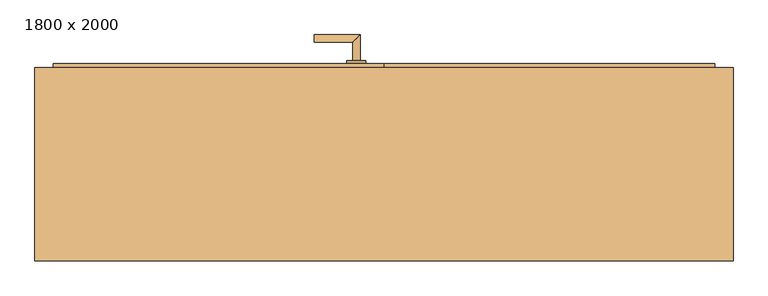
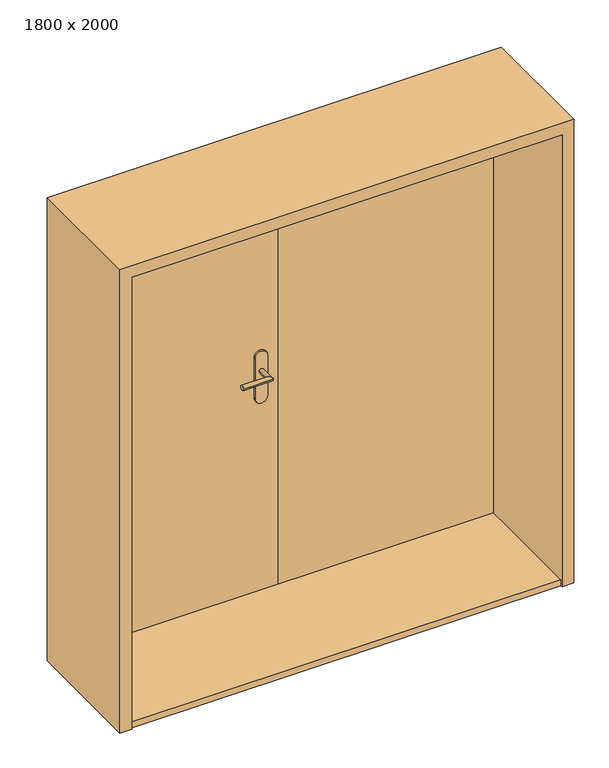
"""IFC4 building model written with IfcOpenShell, lengths in millimetres: door geometry, Dvoukridle oboustrana zaruben : 1800 x 2000."""

from ifc_helpers import new_model, si_unit, point, frame, frame_2d, origin, origin_with_axes, place, context, project, spatial, polyline, circle_curve, ellipse_curve, trimmed, segment, composite_curve, outline, extrude, source, transform, mapped, element, save
from ifc_brep_helpers import plane_surface, cylinder_surface, advanced_brep


def door_1800_x_2000_8b63a593(model_context):
    return source(origin(), model_context, "Body", "SolidModel", [
        extrude(outline(composite_curve([segment(polyline([(883.5, -69.0), (1061.5, -69.0)]), True, "CONTINUOUS"), segment(trimmed(circle_curve(frame_2d((1061.5, -95.0)), 26.0), [point((1061.5, -69.0))], [point((1061.5, -121.0))], False, "CARTESIAN"), True, "CONTINUOUS"), segment(polyline([(1061.5, -121.0), (883.5, -121.0)]), True, "CONTINUOUS"), segment(trimmed(circle_curve(frame_2d((883.5, -95.0)), 26.0), [point((883.5, -121.0))], [point((883.5, -69.0))], False, "CARTESIAN"), True, "CONTINUOUS")], self_intersect=False)), frame((0.0, 275.0, 0.0), z_axis=(0.0, 1.0, 0.0), x_axis=(0.0, 0.0, 1.0)), (0.0, 0.0, 1.0), 8.0),
        advanced_brep(
        [(-85.0, 283.0, 1000.0), (-105.0, 283.0, 1000.0), (-105.0, 333.0, 1000.0), (-85.0, 353.0, 1000.0), (-210.0, 353.0, 1000.0), (-210.0, 333.0, 1000.0)],
        [
            (0, 1, circle_curve(frame((-95.0, 283.0, 1000.0), z_axis=(0.0, -1.0, 0.0), x_axis=(-1.0, 0.0, 0.0)), 10.0)),
            (1, 0, circle_curve(frame((-95.0, 283.0, 1000.0), z_axis=(0.0, -1.0, 0.0), x_axis=(-1.0, 0.0, 0.0)), 10.0)),
            (1, 2),
            (2, 3, ellipse_curve(frame((-95.0, 343.0, 1000.0), z_axis=(0.7071067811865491, -0.7071067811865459, 0.0), x_axis=(-0.7071067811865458, -0.7071067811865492, 0.0)), 14.1421356, 10.0)),
            (3, 0),
            (3, 2, ellipse_curve(frame((-95.0, 343.0, 1000.0), z_axis=(0.7071067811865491, -0.7071067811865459, 0.0), x_axis=(-0.7071067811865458, -0.7071067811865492, 0.0)), 14.1421356, 10.0)),
            (4, 5, circle_curve(frame((-210.0, 343.0, 1000.0), z_axis=(-1.0, 0.0, 0.0), x_axis=(0.0, -1.0, 0.0)), 10.0)),
            (5, 4, circle_curve(frame((-210.0, 343.0, 1000.0), z_axis=(-1.0, 0.0, 0.0), x_axis=(0.0, -1.0, 0.0)), 10.0)),
            (2, 5),
            (4, 3),
        ],
        [
            plane_surface(frame((-95.0, 283.0, 1000.0), z_axis=(0.0, -1.0, 0.0), x_axis=(0.0, 0.0, 1.0))),
            cylinder_surface(frame((-95.0, 283.0, 1000.0), z_axis=(0.0, -1.0, 0.0), x_axis=(-1.0, 0.0, 0.0)), 10.0),
            plane_surface(frame((-210.0, 343.0, 1000.0), z_axis=(-1.0, 0.0, 0.0), x_axis=(0.0, 0.0, 1.0))),
            cylinder_surface(frame((-95.0, 343.0, 1000.0), z_axis=(1.0, 0.0, 0.0), x_axis=(0.0, -1.0, 0.0)), 10.0),
        ],
        [
            (0, [[1, 2]]),
            (1, [[3, 4, 5, -2]]),
            (1, [[-5, 6, -3, -1]]),
            (2, [[7, 8]]),
            (3, [[9, -7, 10, -4]]),
            (3, [[-10, -8, -9, -6]]),
        ],
    ),
        extrude(outline(composite_curve([segment(polyline([(883.5, -69.0), (1061.5, -69.0)]), True, "CONTINUOUS"), segment(trimmed(circle_curve(frame_2d((1061.5, -95.0)), 26.0), [point((1061.5, -69.0))], [point((1061.5, -121.0))], False, "CARTESIAN"), True, "CONTINUOUS"), segment(polyline([(1061.5, -121.0), (883.5, -121.0)]), True, "CONTINUOUS"), segment(trimmed(circle_curve(frame_2d((883.5, -95.0)), 26.0), [point((883.5, -121.0))], [point((883.5, -69.0))], False, "CARTESIAN"), True, "CONTINUOUS")], self_intersect=False)), frame((0.0, 227.0, 0.0), z_axis=(0.0, 1.0, 0.0), x_axis=(0.0, 0.0, 1.0)), (0.0, 0.0, 1.0), 8.0),
        advanced_brep(
        [(-85.0, 227.0, 1000.0), (-105.0, 227.0, 1000.0), (-85.0, 157.0, 1000.0), (-105.0, 177.0, 1000.0), (-210.0, 157.0, 1000.0), (-210.0, 177.0, 1000.0)],
        [
            (0, 1, circle_curve(frame((-95.0, 227.0, 1000.0), z_axis=(0.0, 1.0, 0.0), x_axis=(-1.0, 0.0, 0.0)), 10.0)),
            (1, 0, circle_curve(frame((-95.0, 227.0, 1000.0), z_axis=(0.0, 1.0, 0.0), x_axis=(-1.0, 0.0, 0.0)), 10.0)),
            (0, 2),
            (2, 3, ellipse_curve(frame((-95.0, 167.0, 1000.0), z_axis=(0.7071067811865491, 0.7071067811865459, 0.0), x_axis=(-0.7071067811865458, 0.7071067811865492, 0.0)), 14.1421356, 10.0)),
            (3, 1),
            (3, 2, ellipse_curve(frame((-95.0, 167.0, 1000.0), z_axis=(0.7071067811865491, 0.7071067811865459, 0.0), x_axis=(-0.7071067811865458, 0.7071067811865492, 0.0)), 14.1421356, 10.0)),
            (4, 5, circle_curve(frame((-210.0, 167.0, 1000.0), z_axis=(-1.0, 0.0, 0.0), x_axis=(0.0, 1.0, 0.0)), 10.0)),
            (5, 4, circle_curve(frame((-210.0, 167.0, 1000.0), z_axis=(-1.0, 0.0, 0.0), x_axis=(0.0, 1.0, 0.0)), 10.0)),
            (2, 4),
            (5, 3),
        ],
        [
            plane_surface(frame((-95.0, 227.0, 1000.0), z_axis=(0.0, 1.0, 0.0), x_axis=(0.0, 0.0, 1.0))),
            cylinder_surface(frame((-95.0, 227.0, 1000.0), z_axis=(0.0, 1.0, 0.0), x_axis=(-1.0, 0.0, 0.0)), 10.0),
            plane_surface(frame((-210.0, 167.0, 1000.0), z_axis=(-1.0, 0.0, 0.0), x_axis=(0.0, 0.0, 1.0))),
            cylinder_surface(frame((-95.0, 167.0, 1000.0), z_axis=(1.0, 0.0, 0.0), x_axis=(0.0, 1.0, 0.0)), 10.0),
        ],
        [
            (0, [[1, 2]]),
            (1, [[-1, 3, 4, 5]]),
            (1, [[-2, -5, 6, -3]]),
            (2, [[7, 8]]),
            (3, [[-4, 9, -8, 10]]),
            (3, [[-6, -10, -7, -9]]),
        ],
    ),
        extrude(outline(polyline([(-20.0, 275.0), (880.0, 275.0), (880.0, 235.0), (-20.0, 235.0), (-20.0, 275.0)])), origin_with_axes(), (0.0, 0.0, 1.0), 2000.0),
        extrude(outline(polyline([(-920.0, 275.0), (-20.0, 275.0), (-20.0, 235.0), (-920.0, 235.0), (-920.0, 275.0)])), origin_with_axes(), (0.0, 0.0, 1.0), 2000.0),
        extrude(outline(polyline([(0.0, 880.0), (0.0, 930.0), (2050.0, 930.0), (2050.0, -970.0), (0.0, -970.0), (0.0, -920.0), (2000.0, -920.0), (2000.0, 880.0), (0.0, 880.0)])), frame((0.0, -263.0, 0.0), z_axis=(0.0, 1.0, 0.0), x_axis=(0.0, 0.0, 1.0)), (0.0, 0.0, 1.0), 526.0),
        extrude(outline(polyline([(880.0, -255.0), (-920.0, -255.0), (-920.0, 235.0), (880.0, 235.0), (880.0, -255.0)])), origin_with_axes(), (0.0, 0.0, 1.0), 25.0),
    ])


if __name__ == "__main__":
    model = new_model("IFC4")
    model_context = context("Model", 3, world=origin())
    ifc_project = project(units=[si_unit("LENGTHUNIT", "METRE", prefix="MILLI")], contexts=[model_context])
    site = spatial("IfcSite", under=ifc_project)
    building = spatial("IfcBuilding", under=site)
    placement = place(None, origin())
    door_1800_x_2000_shape = door_1800_x_2000_8b63a593(model_context)
    element("IfcDoor", 1, ObjectType="Dvoukridle oboustrana zaruben : 1800 x 2000", at=placement, inside=building, context=model_context, shape_type="MappedRepresentation", body=[
        mapped(door_1800_x_2000_shape, transform((0.0, 0.0, 0.0), x_axis=(1.0, 0.0, 0.0), y_axis=(0.0, 1.0, 0.0), z_axis=(0.0, 0.0, 1.0))),
    ])
    save(model, "model.ifc")
